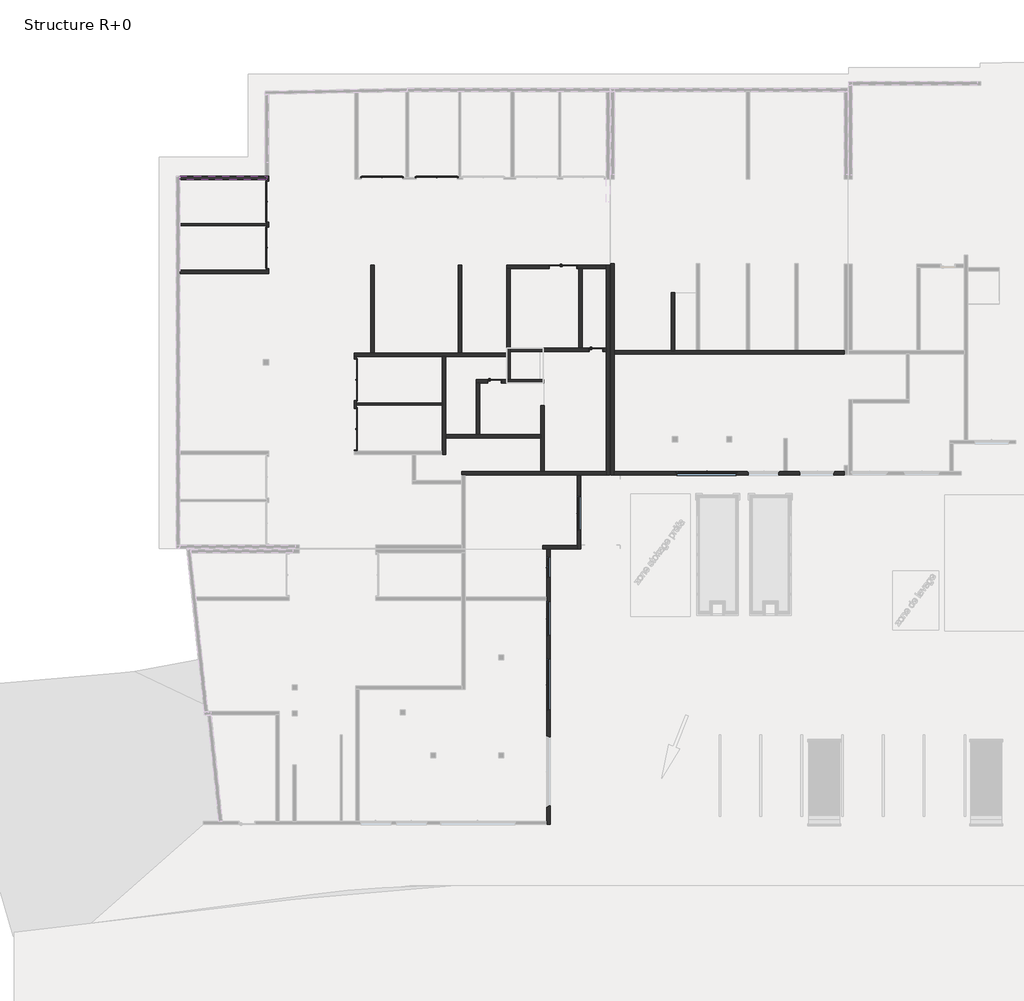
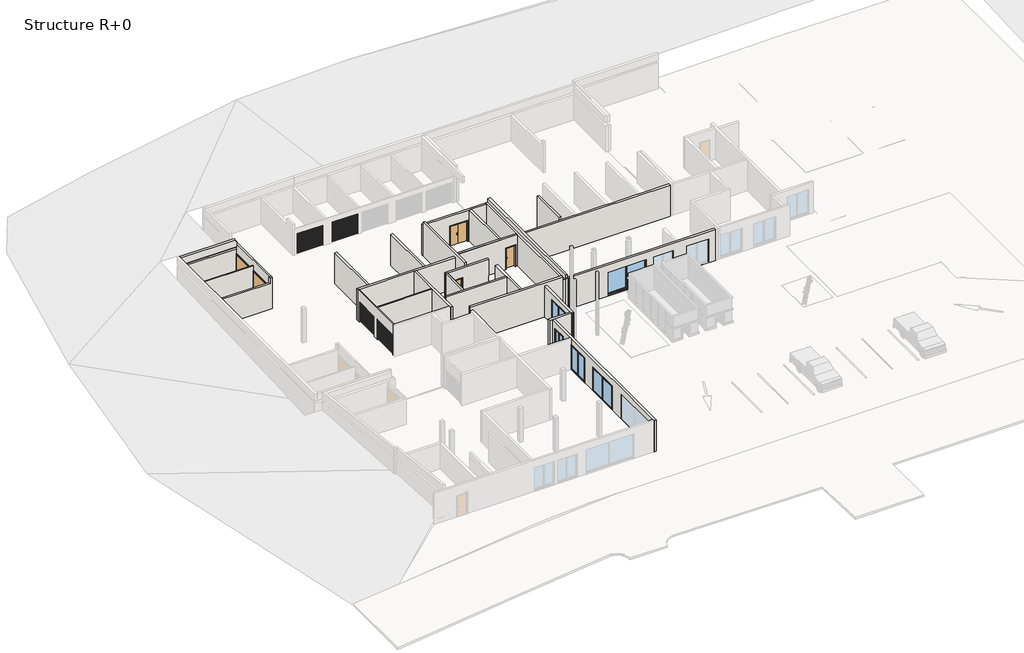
# One storey, part 2 of 8: 28 walls, 9 doors, 5 windows.
"""IFC4 building model written with IfcOpenShell, lengths in millimetres."""

from ifc_helpers import new_model, si_unit, frame, origin, origin_with_axes, place, context, project, spatial, polyline, outline, extrude, faceted_brep, transform, mapped, element, save
from components import door_2_4m_x_2m_ca442cef, double_r_1_63m_x_2_04m_b2d207b5, int_simple_pp_0_83m_x_2_04m_d9e52805, window_1_20m_x_2_35_m_5574f566, window_2_00m_x_2_35m_2ed9f70e, window_3_00m_x_2_25m_97a37025, window_3_50m_x_2_25m_79f3c7aa

model = new_model("IFC4")

# Units and contexts
model_context = context("Model", 3, world=origin())
ifc_project = project(units=[si_unit("LENGTHUNIT", "METRE", prefix="MILLI")], contexts=[model_context])

# Site, building, storey
site = spatial("IfcSite", under=ifc_project)
building = spatial("IfcBuilding", under=site)
storey = spatial("IfcBuildingStorey", under=building, Name="Structure R+0", Elevation=0.0)

# Doors
placement = place(None, origin())
door_2_4m_x_2m_shape = door_2_4m_x_2m_ca442cef(model_context)
element("IfcDoor", 1, ObjectType="Garage basculante : 2.4m x 2m", at=placement, inside=storey, context=model_context, shape_type="MappedRepresentation", body=[
    mapped(door_2_4m_x_2m_shape, transform((13621.19903, 31548.8556304, 0.0), x_axis=(-1.0, 0.0, 0.0), y_axis=(0.0, -1.0, 0.0), z_axis=(0.0, 0.0, 1.0))),
])
element("IfcDoor", 2, ObjectType="Garage basculante : 2.4m x 2m", at=placement, inside=storey, context=model_context, shape_type="MappedRepresentation", body=[
    mapped(door_2_4m_x_2m_shape, transform((10402.5131269, 31548.8556304, 0.0), x_axis=(-1.0, 0.0, 0.0), y_axis=(0.0, -1.0, 0.0), z_axis=(0.0, 0.0, 1.0))),
])
element("IfcDoor", 3, ObjectType="Garage basculante : 2.4m x 2m", at=placement, inside=storey, context=model_context, shape_type="MappedRepresentation", body=[
    mapped(door_2_4m_x_2m_shape, transform((4050.4601593, 30513.092309, 0.0), x_axis=(0.0, -1.0, 0.0), y_axis=(1.0, 0.0, 0.0), z_axis=(0.0, 0.0, 1.0))),
])
element("IfcDoor", 4, ObjectType="Garage basculante : 2.4m x 2m", at=placement, inside=storey, context=model_context, shape_type="MappedRepresentation", body=[
    mapped(door_2_4m_x_2m_shape, transform((4050.4601593, 27803.092309, 0.0), x_axis=(0.0, -1.0, 0.0), y_axis=(1.0, 0.0, 0.0), z_axis=(0.0, 0.0, 1.0))),
])
element("IfcDoor", 5, ObjectType="Garage basculante : 2.4m x 2m", at=placement, inside=storey, context=model_context, shape_type="MappedRepresentation", body=[
    mapped(door_2_4m_x_2m_shape, transform((8507.8778155, 20067.8584771, 0.0), x_axis=(0.0, 1.0, 0.0), y_axis=(-1.0, 0.0, 0.0), z_axis=(0.0, 0.0, 1.0))),
])
element("IfcDoor", 6, ObjectType="Garage basculante : 2.4m x 2m", at=placement, inside=storey, context=model_context, shape_type="MappedRepresentation", body=[
    mapped(door_2_4m_x_2m_shape, transform((8507.8778155, 17164.6332906, 0.0), x_axis=(0.0, 1.0, 0.0), y_axis=(-1.0, 0.0, 0.0), z_axis=(0.0, 0.0, 1.0))),
])
double_r_1_63m_x_2_04m_shape = double_r_1_63m_x_2_04m_b2d207b5(model_context)
element("IfcDoor", 7, ObjectType="Double (R) : 1.63m x 2.04m", at=placement, inside=storey, context=model_context, shape_type="MappedRepresentation", body=[
    mapped(double_r_1_63m_x_2_04m_shape, transform((21063.9631975, 26687.8872551, 0.0), x_axis=(-1.0, 0.0, 0.0), y_axis=(0.0, -1.0, 0.0), z_axis=(0.0, 0.0, 1.0))),
])
int_simple_pp_0_83m_x_2_04m_shape = int_simple_pp_0_83m_x_2_04m_d9e52805(model_context)
element("IfcDoor", 8, ObjectType="Int. Simple : PP (0.83m x 2.04m)", at=placement, inside=storey, context=model_context, shape_type="MappedRepresentation", body=[
    mapped(int_simple_pp_0_83m_x_2_04m_shape, transform((23038.2655761, 21816.9971343, 0.0), x_axis=(1.0, 0.0, 0.0), y_axis=(0.0, 1.0, 0.0), z_axis=(0.0, 0.0, 1.0))),
])
element("IfcDoor", 9, ObjectType="Int. Simple : PP (0.83m x 2.04m)", at=placement, inside=storey, context=model_context, shape_type="MappedRepresentation", body=[
    mapped(int_simple_pp_0_83m_x_2_04m_shape, transform((17080.0880762, 19964.656124, 0.0), x_axis=(1.0, 0.0, 0.0), y_axis=(0.0, 1.0, 0.0), z_axis=(0.0, 0.0, 1.0))),
])

# Walls
element("IfcWall", 10, ObjectType="Voile BA 20 + etancheite 1 + 2 enduit", at=placement, inside=storey, context=model_context, shape_type="Brep", body=[
    faceted_brep([(-1473.0020232, 31818.092309, 2710.0), (3656.9078335, 31818.092309, 2710.0), (3656.9078335, 31818.092309, 2720.0), (3656.9078335, 31818.092309, 3230.0), (3536.9058449, 31818.092309, 3230.0), (3536.9058449, 31818.092309, 3320.0), (3536.9058449, 31818.092309, 3410.0), (-1473.0020232, 31818.092309, 3410.0), (-1473.0020232, 32028.092309, 2710.0), (-1473.0020232, 32028.092309, 3410.0), (3536.9058449, 32028.092309, 3410.0), (3536.9058449, 32028.092309, 3320.0), (3536.9058449, 32028.092309, 3230.0), (3656.9078335, 32028.092309, 3230.0), (3656.9078335, 32028.092309, 2720.0), (3656.9078335, 32028.092309, 2710.0)], [[[0, 1, 2, 3, 4, 5, 6, 7]], [[8, 9, 10, 11, 12, 13, 14, 15]], [[1, 0, 8, 15]], [[7, 6, 10, 9]], [[0, 7, 9, 8]], [[3, 2, 1, 15, 14, 13]], [[6, 5, 4, 12, 11, 10]], [[12, 4, 3, 13]]]),
])
element("IfcWall", 11, ObjectType="Ext. Voile BA 20", at=placement, inside=storey, context=model_context, shape_type="Brep", body=[
    faceted_brep([(23603.2655761, 26787.8872551, 0.0), (23603.2655761, 26587.8872551, 0.0), (23603.2655761, 21916.9971343, 0.0), (23603.2655761, 21716.9971343, 0.0), (23603.2655761, 14657.8960617, 0.0), (23603.2655761, 14457.8960617, 0.0), (23603.2655761, 14457.8960617, 3030.0), (23603.2655761, 14497.950891, 3030.0), (23603.2655761, 21716.9971343, 3030.0), (23603.2655761, 21916.9971343, 3030.0), (23603.2655761, 26587.8872551, 3030.0), (23603.2655761, 26787.8872551, 3030.0), (23803.2655761, 26787.8872551, 0.0), (23803.2655761, 26787.8872551, 3030.0), (23803.2655761, 26687.8463688, 3030.0), (23803.2655761, 14497.950891, 3030.0), (23803.2655761, 14457.8960617, 3030.0), (23803.2655761, 14457.8960617, 0.0)], [[[0, 1, 2, 3, 4, 5, 6, 7, 8, 9, 10, 11]], [[12, 13, 14, 15, 16, 17]], [[5, 4, 3, 2, 1, 0, 12, 17]], [[6, 5, 17, 16]], [[0, 11, 13, 12]], [[7, 6, 16, 15]], [[11, 10, 9, 8, 7, 15, 14, 13]]]),
])
element("IfcWall", 12, ObjectType="Ext. Voile BA 20", at=placement, inside=storey, context=model_context, shape_type="Brep", body=[
    faceted_brep([(21903.2655761, 14457.8960617, 0.0), (21903.2655761, 10305.4117008, 0.0), (21903.2655761, 10105.4117008, 0.0), (21903.2655761, 10105.4117008, 3030.0), (21903.2655761, 10305.4117008, 3030.0), (21903.2655761, 14457.8960617, 3030.0), (21903.2655761, 11155.4117008, 35.0), (21903.2655761, 13255.4117008, 35.0), (21903.2655761, 13255.4117008, 2435.0), (21903.2655761, 11155.4117008, 2435.0), (22103.2655761, 14457.8960617, 0.0), (22103.2655761, 14457.8960617, 3030.0), (22103.2655761, 10105.4117008, 3030.0), (22103.2655761, 10105.4117008, 0.0), (22103.2655761, 13205.4117008, 2385.0), (22103.2655761, 13205.4117008, 22.3874918), (22103.2655761, 11205.4117008, 22.3874918), (22103.2655761, 11205.4117008, 2385.0), (21983.2655761, 13205.4117008, 35.0), (22003.2655761, 13205.4117008, 2385.0), (22003.2655761, 13205.4117008, 35.0), (21983.2655761, 11205.4117008, 35.0), (22003.2655761, 11205.4117008, 35.0), (22003.2655761, 11205.4117008, 2385.0), (22003.2655761, 13215.4117008, 35.0), (21953.2655761, 13215.4117008, 35.0), (21953.2655761, 13255.4117008, 35.0), (21953.2655761, 11155.4117008, 35.0), (21953.2655761, 11195.4117008, 35.0), (22003.2655761, 11195.4117008, 35.0), (21953.2655761, 13255.4117008, 2435.0), (21953.2655761, 13215.4117008, 2395.0), (21953.2655761, 11195.4117008, 2395.0), (21953.2655761, 11155.4117008, 2435.0), (22003.2655761, 13215.4117008, 2395.0), (22003.2655761, 11195.4117008, 2395.0)], [[[0, 1, 2, 3, 4, 5], [6, 7, 8, 9]], [[10, 11, 12, 13], [14, 15, 16, 17]], [[2, 1, 0, 10, 13]], [[0, 5, 11, 10]], [[3, 2, 13, 12]], [[5, 4, 3, 12, 11]], [[18, 15, 14, 19, 20]], [[16, 21, 22, 23, 17]], [[18, 21, 16, 15]], [[14, 17, 23, 19]], [[21, 18, 20, 24, 25, 26, 7, 6, 27, 28, 29, 22]], [[7, 26, 30, 8]], [[26, 25, 31, 32, 28, 27, 33, 30]], [[25, 24, 34, 31]], [[24, 20, 19, 23, 22, 29, 35, 34]], [[8, 30, 33, 9]], [[32, 31, 34, 35]], [[33, 27, 6, 9]], [[28, 32, 35, 29]]]),
])
element("IfcWall", 13, ObjectType="Ext. Voile BA 20", at=placement, inside=storey, context=model_context, shape_type="SweptSolid", body=[
    extrude(outline(polyline([(19872.9268439, 10305.4117008), (21903.2655761, 10305.4117008), (21903.2655761, 10105.4117008), (19872.9268439, 10105.4117008), (19872.9268439, 10305.4117008)])), origin_with_axes(), (0.0, 0.0, 1.0), 3030.0),
])
element("IfcWall", 14, ObjectType="Ext. Voile BA 20", at=placement, inside=storey, context=model_context, shape_type="Brep", body=[
    faceted_brep([(20115.920738, 10065.4658935, 0.0), (20115.920738, 7268.553593, 0.0), (20115.920738, 7068.553593, 0.0), (20115.920738, -5905.1620119, 0.0), (20115.920738, -6105.1620119, 0.0), (20115.920738, -6105.1620119, 3030.0), (20115.920738, -5905.1620119, 3030.0), (20115.920738, 7068.553593, 3030.0), (20115.920738, 7268.553593, 3030.0), (20115.920738, 10065.4658935, 3030.0), (20115.920738, -5060.6481556, 35.0), (20115.920738, -910.6481556, 35.0), (20115.920738, -910.6481556, 2435.0), (20115.920738, -5060.6481556, 2435.0), (20115.920738, 578.553593, 35.0), (20115.920738, 3678.553593, 35.0), (20115.920738, 3678.553593, 2335.0), (20115.920738, 578.553593, 2335.0), (20115.920738, 4958.553593, 35.0), (20115.920738, 7058.553593, 35.0), (20115.920738, 7058.553593, 2435.0), (20115.920738, 4958.553593, 2435.0), (20115.920738, 8375.4658935, 35.0), (20115.920738, 9675.4658935, 35.0), (20115.920738, 9675.4658935, 2435.0), (20115.920738, 8375.4658935, 2435.0), (20315.920738, 10065.4658935, 0.0), (20315.920738, 10065.4658935, 3030.0), (20315.920738, -6105.1620119, 3030.0), (20315.920738, -6105.1620119, 0.0), (20315.920738, -960.6481556, 2385.0), (20315.920738, -960.6481556, 22.3874918), (20315.920738, -5010.6481556, 22.3874918), (20315.920738, -5010.6481556, 2385.0), (20315.920738, 3628.553593, 2285.0), (20315.920738, 3628.553593, 22.3874918), (20315.920738, 628.553593, 22.3874918), (20315.920738, 628.553593, 2285.0), (20315.920738, 7008.553593, 2385.0), (20315.920738, 7008.553593, 22.3874918), (20315.920738, 5008.553593, 22.3874918), (20315.920738, 5008.553593, 2385.0), (20315.920738, 9625.4658935, 2385.0), (20315.920738, 9625.4658935, 22.3874918), (20315.920738, 8425.4658935, 22.3874918), (20315.920738, 8425.4658935, 2385.0), (20195.920738, -960.6481556, 35.0), (20215.920738, -960.6481556, 2385.0), (20215.920738, -960.6481556, 35.0), (20195.920738, -5010.6481556, 35.0), (20215.920738, -5010.6481556, 35.0), (20215.920738, -5010.6481556, 2385.0), (20215.920738, -950.6481556, 35.0), (20165.920738, -950.6481556, 35.0), (20165.920738, -910.6481556, 35.0), (20165.920738, -5060.6481556, 35.0), (20165.920738, -5020.6481556, 35.0), (20215.920738, -5020.6481556, 35.0), (20165.920738, -910.6481556, 2435.0), (20165.920738, -950.6481556, 2395.0), (20165.920738, -5020.6481556, 2395.0), (20165.920738, -5060.6481556, 2435.0), (20215.920738, -950.6481556, 2395.0), (20215.920738, -5020.6481556, 2395.0), (20195.920738, 3628.553593, 35.0), (20215.920738, 3628.553593, 2285.0), (20215.920738, 3628.553593, 35.0), (20195.920738, 628.553593, 35.0), (20215.920738, 628.553593, 35.0), (20215.920738, 628.553593, 2285.0), (20215.920738, 3638.553593, 35.0), (20165.920738, 3638.553593, 35.0), (20165.920738, 3678.553593, 35.0), (20165.920738, 578.553593, 35.0), (20165.920738, 618.553593, 35.0), (20215.920738, 618.553593, 35.0), (20165.920738, 3678.553593, 2335.0), (20165.920738, 3638.553593, 2295.0), (20165.920738, 618.553593, 2295.0), (20165.920738, 578.553593, 2335.0), (20215.920738, 3638.553593, 2295.0), (20215.920738, 618.553593, 2295.0), (20195.920738, 7008.553593, 35.0), (20215.920738, 7008.553593, 2385.0), (20215.920738, 7008.553593, 35.0), (20195.920738, 5008.553593, 35.0), (20215.920738, 5008.553593, 35.0), (20215.920738, 5008.553593, 2385.0), (20215.920738, 7018.553593, 35.0), (20165.920738, 7018.553593, 35.0), (20165.920738, 7058.553593, 35.0), (20165.920738, 4958.553593, 35.0), (20165.920738, 4998.553593, 35.0), (20215.920738, 4998.553593, 35.0), (20165.920738, 7058.553593, 2435.0), (20165.920738, 7018.553593, 2395.0), (20165.920738, 4998.553593, 2395.0), (20165.920738, 4958.553593, 2435.0), (20215.920738, 7018.553593, 2395.0), (20215.920738, 4998.553593, 2395.0), (20195.920738, 9625.4658935, 35.0), (20215.920738, 9625.4658935, 2385.0), (20215.920738, 9625.4658935, 35.0), (20195.920738, 8425.4658935, 35.0), (20215.920738, 8425.4658935, 35.0), (20215.920738, 8425.4658935, 2385.0), (20215.920738, 9635.4658935, 35.0), (20165.920738, 9635.4658935, 35.0), (20165.920738, 9675.4658935, 35.0), (20165.920738, 8375.4658935, 35.0), (20165.920738, 8415.4658935, 35.0), (20215.920738, 8415.4658935, 35.0), (20165.920738, 9675.4658935, 2435.0), (20165.920738, 9635.4658935, 2395.0), (20165.920738, 8415.4658935, 2395.0), (20165.920738, 8375.4658935, 2435.0), (20215.920738, 9635.4658935, 2395.0), (20215.920738, 8415.4658935, 2395.0)], [[[0, 1, 2, 3, 4, 5, 6, 7, 8, 9], [10, 11, 12, 13], [14, 15, 16, 17], [18, 19, 20, 21], [22, 23, 24, 25]], [[26, 27, 28, 29], [30, 31, 32, 33], [34, 35, 36, 37], [38, 39, 40, 41], [42, 43, 44, 45]], [[4, 3, 2, 1, 0, 26, 29]], [[9, 8, 7, 6, 5, 28, 27]], [[0, 9, 27, 26]], [[5, 4, 29, 28]], [[46, 31, 30, 47, 48]], [[32, 49, 50, 51, 33]], [[46, 49, 32, 31]], [[30, 33, 51, 47]], [[49, 46, 48, 52, 53, 54, 11, 10, 55, 56, 57, 50]], [[11, 54, 58, 12]], [[54, 53, 59, 60, 56, 55, 61, 58]], [[53, 52, 62, 59]], [[52, 48, 47, 51, 50, 57, 63, 62]], [[12, 58, 61, 13]], [[60, 59, 62, 63]], [[61, 55, 10, 13]], [[56, 60, 63, 57]], [[64, 35, 34, 65, 66]], [[36, 67, 68, 69, 37]], [[64, 67, 36, 35]], [[34, 37, 69, 65]], [[67, 64, 66, 70, 71, 72, 15, 14, 73, 74, 75, 68]], [[15, 72, 76, 16]], [[72, 71, 77, 78, 74, 73, 79, 76]], [[71, 70, 80, 77]], [[70, 66, 65, 69, 68, 75, 81, 80]], [[16, 76, 79, 17]], [[78, 77, 80, 81]], [[79, 73, 14, 17]], [[74, 78, 81, 75]], [[82, 39, 38, 83, 84]], [[40, 85, 86, 87, 41]], [[82, 85, 40, 39]], [[38, 41, 87, 83]], [[85, 82, 84, 88, 89, 90, 19, 18, 91, 92, 93, 86]], [[19, 90, 94, 20]], [[90, 89, 95, 96, 92, 91, 97, 94]], [[89, 88, 98, 95]], [[88, 84, 83, 87, 86, 93, 99, 98]], [[20, 94, 97, 21]], [[96, 95, 98, 99]], [[97, 91, 18, 21]], [[92, 96, 99, 93]], [[100, 43, 42, 101, 102]], [[44, 103, 104, 105, 45]], [[100, 103, 44, 43]], [[42, 45, 105, 101]], [[103, 100, 102, 106, 107, 108, 23, 22, 109, 110, 111, 104]], [[23, 108, 112, 24]], [[108, 107, 113, 114, 110, 109, 115, 112]], [[107, 106, 116, 113]], [[106, 102, 101, 105, 104, 111, 117, 116]], [[24, 112, 115, 25]], [[114, 113, 116, 117]], [[115, 109, 22, 25]], [[110, 114, 117, 111]]]),
])
element("IfcWall", 15, ObjectType="Ext. Voile BA 20", at=placement, inside=storey, context=model_context, shape_type="Brep", body=[
    faceted_brep([(-1483.0020232, 31828.092309, 0.0), (3656.9078335, 31828.092309, 0.0), (3756.9078335, 31828.092309, 0.0), (3756.9078335, 31828.092309, 2510.0), (-1483.0020232, 31828.092309, 2510.0), (-1483.0020232, 32028.092309, 0.0), (-1483.0020232, 32028.092309, 2510.0), (3556.9078335, 32028.092309, 2510.0), (3756.9078335, 32028.092309, 2510.0), (3756.9078335, 32028.092309, 0.0), (3556.9078335, 32028.092309, 0.0)], [[[0, 1, 2, 3, 4]], [[5, 6, 7, 8, 9, 10]], [[0, 4, 6, 5]], [[3, 2, 9, 8]], [[2, 1, 0, 5, 10, 9]], [[4, 3, 8, 7, 6]]]),
])
element("IfcWall", 16, ObjectType="Ext. Voile BA 20", at=placement, inside=storey, context=model_context, shape_type="SweptSolid", body=[
    extrude(outline(polyline([(15093.9907355, 26785.8625842), (15093.9907355, 21625.8625842), (14893.9907355, 21625.8625842), (14893.9907355, 26785.8625842), (15093.9907355, 26785.8625842)])), origin_with_axes(), (0.0, 0.0, 1.0), 3030.0),
])
element("IfcWall", 17, ObjectType="Ext. Voile BA 20", at=placement, inside=storey, context=model_context, shape_type="SweptSolid", body=[
    extrude(outline(polyline([(9958.0983694, 26785.8625842), (9958.0983694, 21625.8625842), (9758.0983694, 21625.8625842), (9758.0983694, 26785.8625842), (9958.0983694, 26785.8625842)])), origin_with_axes(), (0.0, 0.0, 1.0), 3030.0),
])
element("IfcWall", 18, ObjectType="Ext. Voile BA 20 + 2 enduit", at=placement, inside=storey, context=model_context, shape_type="Brep", body=[
    faceted_brep([(37608.3960659, 14642.6998135, 0.0), (24079.3002373, 14642.6998135, 0.0), (24079.3002373, 14642.6998135, 3030.0), (37608.3960659, 14642.6998135, 3030.0), (34941.8618866, 14642.6998135, 70.0), (37041.8618866, 14642.6998135, 70.0), (37041.8618866, 14642.6998135, 2370.0), (34941.8618866, 14642.6998135, 2370.0), (31897.3966699, 14642.6998135, 70.0), (33797.3966699, 14642.6998135, 70.0), (33797.3966699, 14642.6998135, 2370.0), (31897.3966699, 14642.6998135, 2370.0), (27696.9796965, 14642.6998135, 70.0), (31296.9796965, 14642.6998135, 70.0), (31296.9796965, 14642.6998135, 2370.0), (27696.9796965, 14642.6998135, 2370.0), (37608.3960659, 14442.6998135, 0.0), (37608.3960659, 14442.6998135, 3030.0), (24079.3002373, 14442.6998135, 3030.0), (24079.3002373, 14442.6998135, 0.0), (34991.8618866, 14442.6998135, 57.3874918), (34991.8618866, 14442.6998135, 2320.0), (36991.8618866, 14442.6998135, 2320.0), (36991.8618866, 14442.6998135, 57.3874918), (31947.3966699, 14442.6998135, 57.3874918), (31947.3966699, 14442.6998135, 2320.0), (33747.3966699, 14442.6998135, 2320.0), (33747.3966699, 14442.6998135, 57.3874918), (27746.9796965, 14442.6998135, 57.3874918), (27746.9796965, 14442.6998135, 2320.0), (31246.9796965, 14442.6998135, 2320.0), (31246.9796965, 14442.6998135, 57.3874918), (34991.8618866, 14562.6998135, 70.0), (34991.8618866, 14542.6998135, 70.0), (34991.8618866, 14542.6998135, 2320.0), (36991.8618866, 14542.6998135, 2320.0), (36991.8618866, 14542.6998135, 70.0), (36991.8618866, 14562.6998135, 70.0), (37001.8618866, 14542.6998135, 70.0), (37001.8618866, 14592.6998135, 70.0), (37041.8618866, 14592.6998135, 70.0), (34941.8618866, 14592.6998135, 70.0), (34981.8618866, 14592.6998135, 70.0), (34981.8618866, 14542.6998135, 70.0), (34941.8618866, 14592.6998135, 2370.0), (37041.8618866, 14592.6998135, 2370.0), (37001.8618866, 14592.6998135, 2330.0), (34981.8618866, 14592.6998135, 2330.0), (34981.8618866, 14542.6998135, 2330.0), (37001.8618866, 14542.6998135, 2330.0), (31947.3966699, 14562.6998135, 70.0), (31947.3966699, 14542.6998135, 70.0), (31947.3966699, 14542.6998135, 2320.0), (33747.3966699, 14542.6998135, 2320.0), (33747.3966699, 14542.6998135, 70.0), (33747.3966699, 14562.6998135, 70.0), (33757.3966699, 14542.6998135, 70.0), (33757.3966699, 14592.6998135, 70.0), (33797.3966699, 14592.6998135, 70.0), (31897.3966699, 14592.6998135, 70.0), (31937.3966699, 14592.6998135, 70.0), (31937.3966699, 14542.6998135, 70.0), (31897.3966699, 14592.6998135, 2370.0), (33797.3966699, 14592.6998135, 2370.0), (33757.3966699, 14592.6998135, 2330.0), (31937.3966699, 14592.6998135, 2330.0), (31937.3966699, 14542.6998135, 2330.0), (33757.3966699, 14542.6998135, 2330.0), (27746.9796965, 14562.6998135, 70.0), (27746.9796965, 14542.6998135, 70.0), (27746.9796965, 14542.6998135, 2320.0), (31246.9796965, 14542.6998135, 2320.0), (31246.9796965, 14542.6998135, 70.0), (31246.9796965, 14562.6998135, 70.0), (31256.9796965, 14542.6998135, 70.0), (31256.9796965, 14592.6998135, 70.0), (31296.9796965, 14592.6998135, 70.0), (27696.9796965, 14592.6998135, 70.0), (27736.9796965, 14592.6998135, 70.0), (27736.9796965, 14542.6998135, 70.0), (27696.9796965, 14592.6998135, 2370.0), (31296.9796965, 14592.6998135, 2370.0), (31256.9796965, 14592.6998135, 2330.0), (27736.9796965, 14592.6998135, 2330.0), (27736.9796965, 14542.6998135, 2330.0), (31256.9796965, 14542.6998135, 2330.0)], [[[0, 1, 2, 3], [4, 5, 6, 7], [8, 9, 10, 11], [12, 13, 14, 15]], [[16, 17, 18, 19], [20, 21, 22, 23], [24, 25, 26, 27], [28, 29, 30, 31]], [[1, 0, 16, 19]], [[3, 2, 18, 17]], [[2, 1, 19, 18]], [[0, 3, 17, 16]], [[32, 33, 34, 21, 20]], [[23, 22, 35, 36, 37]], [[32, 20, 23, 37]], [[21, 34, 35, 22]], [[37, 36, 38, 39, 40, 5, 4, 41, 42, 43, 33, 32]], [[4, 7, 44, 41]], [[41, 44, 45, 40, 39, 46, 47, 42]], [[42, 47, 48, 43]], [[43, 48, 49, 38, 36, 35, 34, 33]], [[7, 6, 45, 44]], [[46, 49, 48, 47]], [[45, 6, 5, 40]], [[39, 38, 49, 46]], [[50, 51, 52, 25, 24]], [[27, 26, 53, 54, 55]], [[50, 24, 27, 55]], [[25, 52, 53, 26]], [[55, 54, 56, 57, 58, 9, 8, 59, 60, 61, 51, 50]], [[8, 11, 62, 59]], [[59, 62, 63, 58, 57, 64, 65, 60]], [[60, 65, 66, 61]], [[61, 66, 67, 56, 54, 53, 52, 51]], [[11, 10, 63, 62]], [[64, 67, 66, 65]], [[63, 10, 9, 58]], [[57, 56, 67, 64]], [[68, 69, 70, 29, 28]], [[31, 30, 71, 72, 73]], [[68, 28, 31, 73]], [[29, 70, 71, 30]], [[73, 72, 74, 75, 76, 13, 12, 77, 78, 79, 69, 68]], [[12, 15, 80, 77]], [[77, 80, 81, 76, 75, 82, 83, 78]], [[78, 83, 84, 79]], [[79, 84, 85, 74, 72, 71, 70, 69]], [[15, 14, 81, 80]], [[82, 85, 84, 83]], [[81, 14, 13, 76]], [[75, 74, 85, 82]]]),
])
element("IfcWall", 19, ObjectType="Int. Parpaing 100 mm", at=placement, inside=storey, context=model_context, shape_type="SweptSolid", body=[
    extrude(outline(polyline([(0.0, -1483.0020232), (0.0, 3656.9078335), (2510.0, 3656.9078335), (2510.0, 3536.9058449), (2510.0, -1483.0020232), (0.0, -1483.0020232)])), frame((0.0, 29128.092309, 0.0), z_axis=(0.0, 1.0, 0.0), x_axis=(0.0, 0.0, 1.0)), (0.0, 0.0, 1.0), 100.0),
])
element("IfcWall", 20, ObjectType="Int. Parpaing 100 mm", at=placement, inside=storey, context=model_context, shape_type="Brep", body=[
    faceted_brep([(3656.9078335, 26508.0923089, 3000.0), (3656.9078335, 32028.092309, 3000.0), (3656.9078335, 32028.092309, 2710.0), (3656.9078335, 31828.092309, 2710.0), (3656.9078335, 31828.092309, 0.0), (3656.9078335, 31743.092309, 0.0), (3656.9078335, 31743.092309, 2015.0), (3656.9078335, 29313.092309, 2015.0), (3656.9078335, 29313.092309, 0.0), (3656.9078335, 29228.092309, 0.0), (3656.9078335, 29128.092309, 0.0), (3656.9078335, 29033.092309, 0.0), (3656.9078335, 29033.092309, 2015.0), (3656.9078335, 26603.092309, 2015.0), (3656.9078335, 26603.092309, 0.0), (3656.9078335, 26508.0923089, 0.0), (3756.9078335, 32028.092309, 3000.0), (3756.9078335, 26508.0923089, 3000.0), (3756.9078335, 26508.0923089, 0.0), (3756.9078335, 26603.092309, 0.0), (3756.9078335, 26603.092309, 2015.0), (3756.9078335, 29033.092309, 2015.0), (3756.9078335, 29033.092309, 0.0), (3756.9078335, 29313.092309, 0.0), (3756.9078335, 29313.092309, 2015.0), (3756.9078335, 31743.092309, 2015.0), (3756.9078335, 31743.092309, 0.0), (3756.9078335, 31828.092309, 0.0), (3756.9078335, 31828.092309, 2510.0), (3756.9078335, 31828.092309, 2710.0), (3756.9078335, 32028.092309, 2710.0)], [[[0, 1, 2, 3, 4, 5, 6, 7, 8, 9, 10, 11, 12, 13, 14, 15]], [[16, 17, 18, 19, 20, 21, 22, 23, 24, 25, 26, 27, 28, 29, 30]], [[4, 27, 26, 5]], [[18, 15, 14, 19]], [[8, 23, 22, 11, 10, 9]], [[1, 0, 17, 16]], [[0, 15, 18, 17]], [[24, 7, 6, 25]], [[25, 6, 5, 26]], [[7, 24, 23, 8]], [[20, 13, 12, 21]], [[21, 12, 11, 22]], [[13, 20, 19, 14]], [[30, 29, 3, 2]], [[27, 4, 3, 29, 28]], [[1, 16, 30, 2]]]),
])
element("IfcWall", 21, ObjectType="Int. Parpaing 100 mm", at=placement, inside=storey, context=model_context, shape_type="Brep", body=[
    faceted_brep([(8801.4301413, 15849.6332906, 3030.0), (8801.4301413, 21425.8625842, 3030.0), (8801.4301413, 21425.8625842, 0.0), (8801.4301413, 21267.8584771, 0.0), (8801.4301413, 21267.8584771, 2015.0), (8801.4301413, 18837.8584771, 2015.0), (8801.4301413, 18837.8584771, 0.0), (8801.4301413, 18364.6332906, 0.0), (8801.4301413, 18364.6332906, 2015.0), (8801.4301413, 15934.6332906, 2015.0), (8801.4301413, 15934.6332906, 0.0), (8801.4301413, 15849.6332906, 0.0), (8901.4301413, 21425.8625842, 3030.0), (8901.4301413, 15849.6332906, 3030.0), (8901.4301413, 15849.6332906, 0.0), (8901.4301413, 15934.6332906, 0.0), (8901.4301413, 15934.6332906, 2015.0), (8901.4301413, 18364.6332906, 2015.0), (8901.4301413, 18364.6332906, 0.0), (8901.4301413, 18579.8543699, 0.0), (8901.4301413, 18679.8543699, 0.0), (8901.4301413, 18837.8584771, 0.0), (8901.4301413, 18837.8584771, 2015.0), (8901.4301413, 21267.8584771, 2015.0), (8901.4301413, 21267.8584771, 0.0), (8901.4301413, 21425.8625842, 0.0)], [[[0, 1, 2, 3, 4, 5, 6, 7, 8, 9, 10, 11]], [[12, 13, 14, 15, 16, 17, 18, 19, 20, 21, 22, 23, 24, 25]], [[2, 25, 24, 3]], [[14, 11, 10, 15]], [[6, 21, 20, 19, 18, 7]], [[1, 0, 13, 12]], [[0, 11, 14, 13]], [[2, 1, 12, 25]], [[4, 23, 22, 5]], [[5, 22, 21, 6]], [[23, 4, 3, 24]], [[8, 17, 16, 9]], [[9, 16, 15, 10]], [[17, 8, 7, 18]]]),
])
element("IfcWall", 22, ObjectType="Int. Parpaing 100 mm", at=placement, inside=storey, context=model_context, shape_type="SweptSolid", body=[
    extrude(outline(polyline([(13964.9548931, 18579.8543699), (8901.4301413, 18579.8543699), (8901.4301413, 18679.8543699), (13964.9548931, 18679.8543699), (13964.9548931, 18579.8543699)])), origin_with_axes(), (0.0, 0.0, 1.0), 3000.0),
])
element("IfcWall", 23, ObjectType="Voile BA 20", at=placement, inside=storey, context=model_context, shape_type="Brep", body=[
    faceted_brep([(23603.2655761, 14657.8960617, 0.0), (19949.9321418, 14657.8960617, 0.0), (19749.9321418, 14657.8960617, 0.0), (15109.3203129, 14657.8960617, 0.0), (15109.3203129, 14657.8960617, 3320.0), (19749.9321418, 14657.8960617, 3320.0), (19949.9321418, 14657.8960617, 3320.0), (23603.2655761, 14657.8960617, 3320.0), (23603.2655761, 14457.8960617, 0.0), (23603.2655761, 14457.8960617, 3030.0), (23603.2655761, 14457.8960617, 3320.0), (15109.3203129, 14457.8960617, 3320.0), (15109.3203129, 14457.8960617, 3030.0), (15109.3203129, 14457.8960617, 0.0), (15309.3203129, 14457.8960617, 0.0), (21903.2655761, 14457.8960617, 0.0), (22103.2655761, 14457.8960617, 0.0)], [[[0, 1, 2, 3, 4, 5, 6, 7]], [[8, 9, 10, 11, 12, 13, 14, 15, 16]], [[3, 2, 1, 0, 8, 16, 15, 14, 13]], [[7, 6, 5, 4, 11, 10]], [[0, 7, 10, 9, 8]], [[4, 3, 13, 12, 11]]]),
])
element("IfcWall", 24, ObjectType="Voile BA 20", at=placement, inside=storey, context=model_context, shape_type="Brep", body=[
    faceted_brep([(37608.398272, 21772.7235205, 0.0), (34893.7772107, 21772.7235205, 0.0), (34693.7772107, 21772.7235205, 0.0), (32028.7712439, 21772.7235205, 0.0), (31828.7712439, 21772.7235205, 0.0), (29098.2960148, 21772.7235205, 0.0), (28898.2960148, 21772.7235205, 0.0), (27626.926938, 21772.7235205, 0.0), (27426.926938, 21772.7235205, 0.0), (24079.3002373, 21772.7235205, 0.0), (24079.3002373, 21772.7235205, 3030.0), (28898.2960148, 21772.7235205, 3030.0), (29098.2960148, 21772.7235205, 3030.0), (31828.7712439, 21772.7235205, 3030.0), (32028.7712439, 21772.7235205, 3030.0), (34693.7772107, 21772.7235205, 3030.0), (34893.7772107, 21772.7235205, 3030.0), (37608.398272, 21772.7235205, 3030.0), (37608.398272, 21572.7235205, 0.0), (37608.398272, 21572.7235205, 3030.0), (24079.3002373, 21572.7235205, 3030.0), (24079.3002373, 21572.7235205, 0.0)], [[[0, 1, 2, 3, 4, 5, 6, 7, 8, 9, 10, 11, 12, 13, 14, 15, 16, 17]], [[18, 19, 20, 21]], [[9, 8, 7, 6, 5, 4, 3, 2, 1, 0, 18, 21]], [[0, 17, 19, 18]], [[10, 9, 21, 20]], [[17, 16, 15, 14, 13, 12, 11, 10, 20, 19]]]),
])
element("IfcWall", 25, ObjectType="Voile BA 20", at=placement, inside=storey, context=model_context, shape_type="SweptSolid", body=[
    extrude(outline(polyline([(27626.926938, 25172.7235205), (27626.926938, 21772.7235205), (27426.926938, 21772.7235205), (27426.926938, 25172.7235205), (27626.926938, 25172.7235205)])), origin_with_axes(), (0.0, 0.0, 1.0), 3320.0),
])
element("IfcWall", 26, ObjectType="Voile BA 20", at=placement, inside=storey, context=model_context, shape_type="Brep", body=[
    faceted_brep([(23879.3002373, 26872.7235205, 0.0), (23879.3002373, 14442.6998135, 0.0), (23879.3002373, 14442.6998135, 3030.0), (23879.3002373, 14597.8380864, 3030.0), (23879.3002373, 14597.8380864, 3320.0), (23879.3002373, 26872.7235205, 3320.0), (24079.3002373, 26872.7235205, 0.0), (24079.3002373, 26872.7235205, 3320.0), (24079.3002373, 14597.8380864, 3320.0), (24079.3002373, 14597.8380864, 3030.0), (24079.3002373, 14442.6998135, 3030.0), (24079.3002373, 14442.6998135, 0.0), (24079.3002373, 21572.7235205, 0.0), (24079.3002373, 21772.7235205, 0.0)], [[[0, 1, 2, 3, 4, 5]], [[6, 7, 8, 9, 10, 11, 12, 13]], [[1, 0, 6, 13, 12, 11]], [[5, 4, 8, 7]], [[0, 5, 7, 6]], [[9, 3, 2, 10]], [[2, 1, 11, 10]], [[3, 9, 8, 4]]]),
])
element("IfcWall", 27, ObjectType="Voile BA 20", at=placement, inside=storey, context=model_context, shape_type="Brep", body=[
    faceted_brep([(23603.2655761, 21916.9971343, 3030.0), (23603.2655761, 21916.9971343, 0.0), (23453.2655761, 21916.9971343, 0.0), (23453.2655761, 21916.9971343, 2075.0), (22553.2655761, 21916.9971343, 2075.0), (22553.2655761, 21916.9971343, 0.0), (22195.0784755, 21916.9971343, 0.0), (21995.0784755, 21916.9971343, 0.0), (17965.0880762, 21916.9971343, 0.0), (17965.0880762, 21916.9971343, 3030.0), (21995.0784755, 21916.9971343, 3030.0), (22195.0784755, 21916.9971343, 3030.0), (23603.2655761, 21716.9971343, 3030.0), (17965.0880762, 21716.9971343, 3030.0), (17965.0880762, 21716.9971343, 0.0), (22553.2655761, 21716.9971343, 0.0), (22553.2655761, 21716.9971343, 2075.0), (23453.2655761, 21716.9971343, 2075.0), (23453.2655761, 21716.9971343, 0.0), (23603.2655761, 21716.9971343, 0.0), (23603.2655761, 21756.9971496, 3030.0), (17965.0880762, 21756.9971496, 3030.0), (19809.8425091, 21756.9971496, 3030.0)], [[[0, 1, 2, 3, 4, 5, 6, 7, 8, 9, 10, 11]], [[12, 13, 14, 15, 16, 17, 18, 19]], [[1, 19, 18, 2]], [[14, 8, 7, 6, 5, 15]], [[1, 0, 20, 12, 19]], [[9, 8, 14, 13, 21]], [[0, 11, 10, 9, 21, 22, 20]], [[17, 3, 2, 18]], [[3, 17, 16, 4]], [[4, 16, 15, 5]], [[13, 12, 20, 22, 21]]]),
])
element("IfcWall", 28, ObjectType="Voile BA 20", at=placement, inside=storey, context=model_context, shape_type="Brep", body=[
    faceted_brep([(23603.2655761, 26787.8872551, 3030.0), (23603.2655761, 26787.8872551, 0.0), (21913.9631975, 26787.8872551, 0.0), (21913.9631975, 26787.8872551, 2075.0), (20213.9631975, 26787.8872551, 2075.0), (20213.9631975, 26787.8872551, 0.0), (17765.0880762, 26787.8872551, 0.0), (17765.0880762, 26787.8872551, 3030.0), (23603.2655761, 26587.8872551, 0.0), (23603.2655761, 26587.8872551, 3030.0), (22195.0784755, 26587.8872551, 3030.0), (21995.0784755, 26587.8872551, 3030.0), (17765.0880762, 26587.8872551, 3030.0), (17765.0880762, 26587.8872551, 0.0), (17965.0880762, 26587.8872551, 0.0), (20213.9631975, 26587.8872551, 0.0), (20213.9631975, 26587.8872551, 2075.0), (21913.9631975, 26587.8872551, 2075.0), (21913.9631975, 26587.8872551, 0.0), (21995.0784755, 26587.8872551, 0.0), (22195.0784755, 26587.8872551, 0.0)], [[[0, 1, 2, 3, 4, 5, 6, 7]], [[8, 9, 10, 11, 12, 13, 14, 15, 16, 17, 18, 19, 20]], [[1, 8, 20, 19, 18, 2]], [[13, 6, 5, 15, 14]], [[1, 0, 9, 8]], [[7, 6, 13, 12]], [[0, 7, 12, 11, 10, 9]], [[4, 16, 15, 5]], [[16, 4, 3, 17]], [[17, 3, 2, 18]]]),
])
element("IfcWall", 29, ObjectType="Voile BA 20", at=placement, inside=storey, context=model_context, shape_type="Brep", body=[
    faceted_brep([(17765.0880762, 26587.8872551, 0.0), (17765.0880762, 21625.8625842, 0.0), (17765.0880762, 21425.8625842, 0.0), (17765.0880762, 20064.656124, 0.0), (17765.0880762, 20064.656124, 3320.0), (17765.0880762, 22308.2793913, 3320.0), (17765.0880762, 22508.2793913, 3320.0), (17765.0880762, 26587.8872551, 3320.0), (17765.0880762, 26587.8872551, 3030.0), (17965.0880762, 26587.8872551, 0.0), (17965.0880762, 26587.8872551, 3320.0), (17965.0880762, 22508.2793913, 3320.0), (17965.0880762, 22308.2793913, 3320.0), (17965.0880762, 20064.656124, 3320.0), (17965.0880762, 20064.656124, 0.0), (17965.0880762, 21716.9971343, 0.0), (17965.0880762, 21916.9971343, 0.0)], [[[0, 1, 2, 3, 4, 5, 6, 7, 8]], [[9, 10, 11, 12, 13, 14, 15, 16]], [[3, 2, 1, 0, 9, 16, 15, 14]], [[7, 6, 5, 4, 13, 12, 11, 10]], [[0, 8, 7, 10, 9]], [[4, 3, 14, 13]]]),
])
element("IfcWall", 30, ObjectType="Voile BA 20", at=placement, inside=storey, context=model_context, shape_type="SweptSolid", body=[
    extrude(outline(polyline([(21995.0784755, 21916.9971343), (21995.0784755, 26587.8872551), (22195.0784755, 26587.8872551), (22195.0784755, 21916.9971343), (21995.0784755, 21916.9971343)])), origin_with_axes(), (0.0, 0.0, 1.0), 3030.0),
])
element("IfcWall", 31, ObjectType="Voile BA 20", at=placement, inside=storey, context=model_context, shape_type="Brep", body=[
    faceted_brep([(19929.9333487, 20064.656124, 3030.0), (19929.9333487, 20064.656124, 0.0), (17965.0880762, 20064.656124, 0.0), (17765.0880762, 20064.656124, 0.0), (17495.0880762, 20064.656124, 0.0), (17495.0880762, 20064.656124, 2075.0), (16595.0880762, 20064.656124, 2075.0), (16595.0880762, 20064.656124, 0.0), (15966.2503534, 20064.656124, 0.0), (15966.2503534, 20064.656124, 3030.0), (17765.0745996, 20064.656124, 3030.0), (19749.8425091, 20064.656124, 3030.0), (19929.9333487, 19864.656124, 0.0), (19929.9333487, 19864.656124, 3030.0), (19729.8425091, 19864.656124, 3030.0), (17939.3988956, 19864.656124, 3030.0), (16166.2503534, 19864.656124, 3030.0), (15966.2503534, 19864.656124, 3030.0), (15966.2503534, 19864.656124, 0.0), (16166.2503534, 19864.656124, 0.0), (16595.0880762, 19864.656124, 0.0), (16595.0880762, 19864.656124, 2075.0), (17495.0880762, 19864.656124, 2075.0), (17495.0880762, 19864.656124, 0.0)], [[[0, 1, 2, 3, 4, 5, 6, 7, 8, 9, 10, 11]], [[12, 13, 14, 15, 16, 17, 18, 19, 20, 21, 22, 23]], [[1, 12, 23, 4, 3, 2]], [[18, 8, 7, 20, 19]], [[1, 0, 13, 12]], [[9, 8, 18, 17]], [[22, 5, 4, 23]], [[5, 22, 21, 6]], [[6, 21, 20, 7]], [[13, 0, 11, 10, 9, 17, 16, 15, 14]]]),
])
element("IfcWall", 32, ObjectType="Voile BA 20", at=placement, inside=storey, context=model_context, shape_type="Brep", body=[
    faceted_brep([(15966.2503534, 19864.656124, 0.0), (15966.2503534, 16841.0290332, 0.0), (15966.2503534, 16841.0290332, 3030.0), (15966.2503534, 19864.656124, 3030.0), (16166.2503534, 19864.656124, 0.0), (16166.2503534, 19864.656124, 3030.0), (16166.2503534, 16841.0290332, 3030.0), (16166.2503534, 16841.0290332, 0.0), (16106.1727456, 19864.656124, 3030.0), (16106.1727456, 16841.0290332, 3030.0), (16106.1727456, 18636.3961603, 3030.0)], [[[0, 1, 2, 3]], [[4, 5, 6, 7]], [[1, 0, 4, 7]], [[0, 3, 8, 5, 4]], [[2, 1, 7, 6, 9]], [[3, 2, 9, 10, 8]], [[9, 6, 5, 8, 10]]]),
])
element("IfcWall", 33, ObjectType="Voile BA 20", at=placement, inside=storey, context=model_context, shape_type="Brep", body=[
    faceted_brep([(19749.9321418, 18528.0946332, 0.0), (19749.9321418, 16841.0290332, 0.0), (19749.9321418, 16641.0290332, 0.0), (19749.9321418, 14657.8960617, 0.0), (19749.9321418, 14657.8960617, 3320.0), (19749.9321418, 16641.0290332, 3320.0), (19749.9321418, 16841.0290332, 3320.0), (19749.9321418, 18528.0946332, 3320.0), (19949.9321418, 18528.0946332, 0.0), (19949.9321418, 18528.0946332, 3320.0), (19949.9321418, 14657.8960617, 3320.0), (19949.9321418, 14657.8960617, 0.0)], [[[0, 1, 2, 3, 4, 5, 6, 7]], [[8, 9, 10, 11]], [[3, 2, 1, 0, 8, 11]], [[7, 6, 5, 4, 10, 9]], [[0, 7, 9, 8]], [[4, 3, 11, 10]]]),
])
element("IfcWall", 34, ObjectType="Voile BA 20", at=placement, inside=storey, context=model_context, shape_type="Brep", body=[
    faceted_brep([(19749.9321418, 16841.0290332, 0.0), (16166.2503534, 16841.0290332, 0.0), (15966.2503534, 16841.0290332, 0.0), (14164.9548931, 16841.0290332, 0.0), (14164.9548931, 16841.0290332, 3320.0), (19749.9321418, 16841.0290332, 3320.0), (19749.9321418, 16641.0290332, 0.0), (19749.9321418, 16641.0290332, 3320.0), (14164.9548931, 16641.0290332, 3320.0), (14164.9548931, 16641.0290332, 0.0)], [[[0, 1, 2, 3, 4, 5]], [[6, 7, 8, 9]], [[3, 2, 1, 0, 6, 9]], [[5, 4, 8, 7]], [[0, 5, 7, 6]], [[4, 3, 9, 8]]]),
])
element("IfcWall", 35, ObjectType="Voile BA 20", at=placement, inside=storey, context=model_context, shape_type="Brep", body=[
    faceted_brep([(13964.9548931, 21425.8625842, 0.0), (13964.9548931, 18679.8543699, 0.0), (13964.9548931, 18579.8543699, 0.0), (13964.9548931, 15849.6332906, 0.0), (13964.9548931, 15649.6332906, 0.0), (13964.9548931, 15649.6332906, 3030.0), (13964.9548931, 15849.6332906, 3030.0), (13964.9548931, 21425.8625842, 3030.0), (14164.9548931, 21425.8625842, 0.0), (14164.9548931, 21425.8625842, 3030.0), (14164.9548931, 15649.6332906, 3030.0), (14164.9548931, 15649.6332906, 0.0), (14164.9548931, 16641.0290332, 0.0), (14164.9548931, 16841.0290332, 0.0)], [[[0, 1, 2, 3, 4, 5, 6, 7]], [[8, 9, 10, 11, 12, 13]], [[4, 3, 2, 1, 0, 8, 13, 12, 11]], [[5, 4, 11, 10]], [[0, 7, 9, 8]], [[7, 6, 5, 10, 9]]]),
])
element("IfcWall", 36, ObjectType="Voile BA 20", at=placement, inside=storey, context=model_context, shape_type="Brep", body=[
    faceted_brep([(17765.0880762, 21625.8625842, 0.0), (15093.9907355, 21625.8625842, 0.0), (14893.9907355, 21625.8625842, 0.0), (9958.0983694, 21625.8625842, 0.0), (9758.0983694, 21625.8625842, 0.0), (8801.4301413, 21625.8625842, 0.0), (8801.4301413, 21625.8625842, 3030.0), (9758.0983694, 21625.8625842, 3030.0), (9958.0983694, 21625.8625842, 3030.0), (14893.9907355, 21625.8625842, 3030.0), (15093.9907355, 21625.8625842, 3030.0), (17765.0745996, 21625.8625842, 3030.0), (17765.0880762, 21425.8625842, 0.0), (17765.0880762, 21425.8625842, 3030.0), (14164.9548931, 21425.8625842, 3030.0), (13964.9548931, 21425.8625842, 3030.0), (8901.4301413, 21425.8625842, 3030.0), (8801.4301413, 21425.8625842, 3030.0), (8801.4301413, 21425.8625842, 0.0), (8901.4301413, 21425.8625842, 0.0), (13964.9548931, 21425.8625842, 0.0), (14164.9548931, 21425.8625842, 0.0)], [[[0, 1, 2, 3, 4, 5, 6, 7, 8, 9, 10, 11]], [[12, 13, 14, 15, 16, 17, 18, 19, 20, 21]], [[5, 4, 3, 2, 1, 0, 12, 21, 20, 19, 18]], [[0, 11, 13, 12]], [[6, 5, 18, 17]], [[11, 10, 9, 8, 7, 6, 17, 16, 15, 14, 13]]]),
])
element("IfcWall", 37, ObjectType="Voile BA 20", at=placement, inside=storey, context=model_context, shape_type="Brep", body=[
    faceted_brep([(3756.9078335, 26508.0923089, 0.0), (3656.9078335, 26508.0923089, 0.0), (-1483.0020232, 26508.0923089, 0.0), (-1483.0020232, 26508.0923089, 2510.0), (3536.9058449, 26508.0923089, 2510.0), (3536.9058449, 26508.0923089, 3030.0), (3555.2220688, 26508.0923089, 3030.0), (3756.9078335, 26508.0923089, 3030.0), (3756.9078335, 26508.0923089, 3000.0), (3756.9078335, 26308.0923089, 0.0), (3756.9078335, 26308.0923089, 3030.0), (3555.2220688, 26308.0923089, 3030.0), (3536.9058449, 26308.0923089, 3030.0), (3536.9058449, 26308.0923089, 2510.0), (-1483.0020232, 26308.0923089, 2510.0), (-1483.0020232, 26308.0923089, 0.0)], [[[0, 1, 2, 3, 4, 5, 6, 7, 8]], [[9, 10, 11, 12, 13, 14, 15]], [[2, 1, 0, 9, 15]], [[0, 8, 7, 10, 9]], [[7, 6, 11, 10]], [[4, 3, 14, 13]], [[6, 5, 12, 11]], [[12, 5, 4, 13]], [[3, 2, 15, 14]]]),
])

# Windows
window_1_20m_x_2_35_m_shape = window_1_20m_x_2_35_m_5574f566(model_context)
element("IfcWindow", 38, ObjectType="PF 2 Vantaux - Droits : 1.20m x 2.35 m", at=placement, inside=storey, context=model_context, shape_type="MappedRepresentation", body=[
    mapped(window_1_20m_x_2_35_m_shape, transform((20215.920738, 9025.4658935, 0.0), x_axis=(0.0, -1.0, 0.0), y_axis=(1.0, 0.0, 0.0), z_axis=(0.0, 0.0, 1.0))),
])
window_2_00m_x_2_35m_shape = window_2_00m_x_2_35m_2ed9f70e(model_context)
element("IfcWindow", 39, ObjectType="PF 2 Vantaux - Droits : 2.00m x 2.35m", at=placement, inside=storey, context=model_context, shape_type="MappedRepresentation", body=[
    mapped(window_2_00m_x_2_35m_shape, transform((20215.920738, 6008.553593, 0.0), x_axis=(0.0, -1.0, 0.0), y_axis=(1.0, 0.0, 0.0), z_axis=(0.0, 0.0, 1.0))),
])
element("IfcWindow", 40, ObjectType="PF 2 Vantaux - Droits : 2.00m x 2.35m", at=placement, inside=storey, context=model_context, shape_type="MappedRepresentation", body=[
    mapped(window_2_00m_x_2_35m_shape, transform((22003.2655761, 12205.4117008, 0.0), x_axis=(0.0, -1.0, 0.0), y_axis=(1.0, 0.0, 0.0), z_axis=(0.0, 0.0, 1.0))),
])
window_3_00m_x_2_25m_shape = window_3_00m_x_2_25m_97a37025(model_context)
element("IfcWindow", 41, ObjectType="PF 2 Vantaux - Droits : 3.00m x 2.25m", at=placement, inside=storey, context=model_context, shape_type="MappedRepresentation", body=[
    mapped(window_3_00m_x_2_25m_shape, transform((20215.920738, 2128.553593, 0.0), x_axis=(0.0, -1.0, 0.0), y_axis=(1.0, 0.0, 0.0), z_axis=(0.0, 0.0, 1.0))),
])
window_3_50m_x_2_25m_shape = window_3_50m_x_2_25m_79f3c7aa(model_context)
element("IfcWindow", 42, ObjectType="PF 2 Vantaux - Droits : 3.50m x 2.25m", at=placement, inside=storey, context=model_context, shape_type="MappedRepresentation", body=[
    mapped(window_3_50m_x_2_25m_shape, transform((29496.9796965, 14542.6998135, 35.0), x_axis=(1.0, 0.0, 0.0), y_axis=(0.0, 1.0, 0.0), z_axis=(0.0, 0.0, 1.0))),
])

save(model, "model.ifc")
